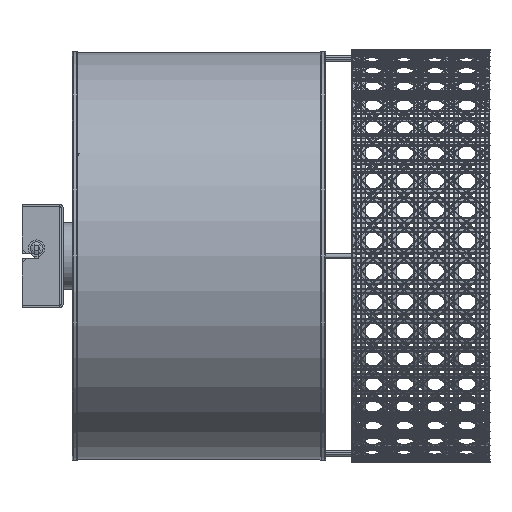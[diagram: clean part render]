
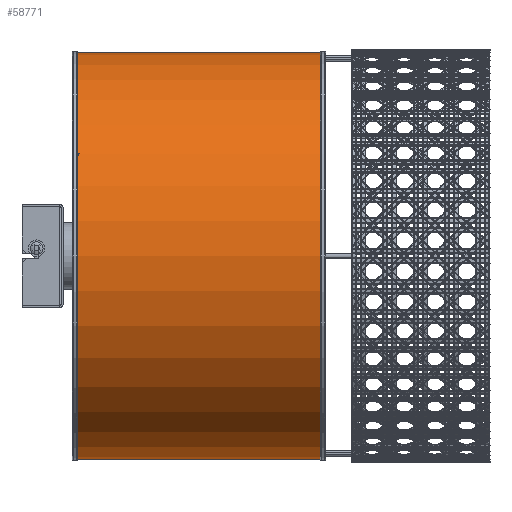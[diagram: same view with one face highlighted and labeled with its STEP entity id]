
A CAD part, left-side view. The second image highlights one B-rep face of the part: STEP entity #58771.
In plain terms, the highlighted cylindrical face has radius 98.489 mm (diameter 196.978 mm), a full revolution.
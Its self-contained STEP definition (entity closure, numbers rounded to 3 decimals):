
#7797=LINE('',#159316,#10447);
#10447=VECTOR('',#74084,98.489);
#12593=CYLINDRICAL_SURFACE('',#64005,98.489);
#15154=FACE_OUTER_BOUND('',#18967,.T.);
#18967=EDGE_LOOP('',(#47438,#47439,#47440,#47441));
#22395=CIRCLE('',#64006,98.489);
#22396=CIRCLE('',#64007,98.489);
#26752=VERTEX_POINT('',#159313);
#26753=VERTEX_POINT('',#159315);
#34171=EDGE_CURVE('',#26752,#26752,#22395,.T.);
#34172=EDGE_CURVE('',#26752,#26753,#7797,.T.);
#34173=EDGE_CURVE('',#26753,#26753,#22396,.T.);
#47438=ORIENTED_EDGE('',*,*,#34171,.F.);
#47439=ORIENTED_EDGE('',*,*,#34172,.T.);
#47440=ORIENTED_EDGE('',*,*,#34173,.T.);
#47441=ORIENTED_EDGE('',*,*,#34172,.F.);
#58771=ADVANCED_FACE('',(#15154),#12593,.T.);
#64005=AXIS2_PLACEMENT_3D('',#159312,#74080,#74081);
#64006=AXIS2_PLACEMENT_3D('',#159314,#74082,#74083);
#64007=AXIS2_PLACEMENT_3D('',#159317,#74085,#74086);
#74080=DIRECTION('center_axis',(0.,-1.,0.));
#74081=DIRECTION('ref_axis',(1.,0.,0.));
#74082=DIRECTION('center_axis',(0.,-1.,0.));
#74083=DIRECTION('ref_axis',(1.,0.,0.));
#74084=DIRECTION('',(0.,1.,0.));
#74085=DIRECTION('center_axis',(0.,-1.,0.));
#74086=DIRECTION('ref_axis',(1.,0.,0.));
#159312=CARTESIAN_POINT('Origin',(0.,140.75,0.));
#159313=CARTESIAN_POINT('',(-98.489,82.,0.));
#159314=CARTESIAN_POINT('Origin',(0.,82.,0.));
#159315=CARTESIAN_POINT('',(-98.489,199.5,0.));
#159316=CARTESIAN_POINT('',(-98.489,140.75,0.));
#159317=CARTESIAN_POINT('Origin',(0.,199.5,0.));
